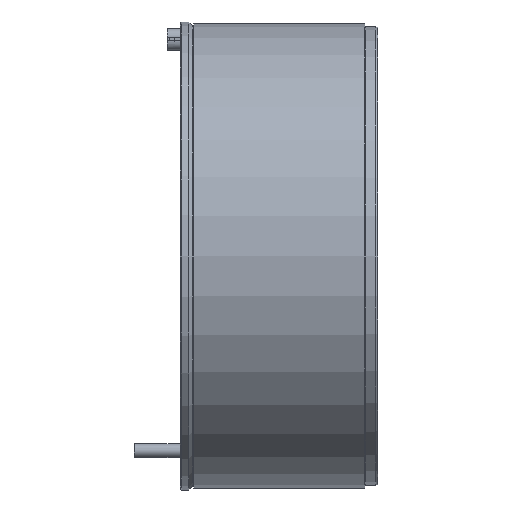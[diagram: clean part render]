
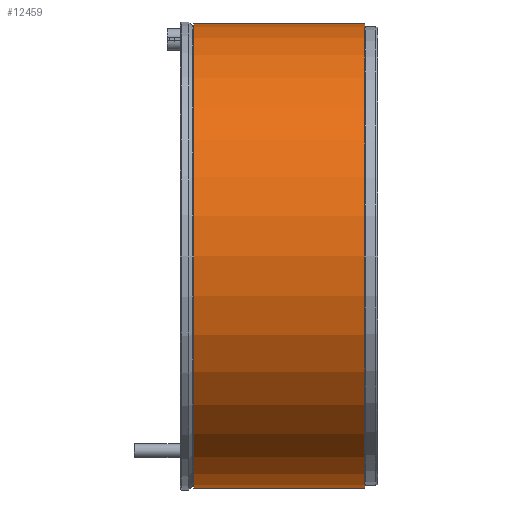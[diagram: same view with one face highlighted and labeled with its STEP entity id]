
A CAD part, left-side view. The second image highlights one B-rep face of the part: STEP entity #12459.
In plain terms, the highlighted cylindrical face has radius 247 mm (diameter 494 mm), a partial arc.
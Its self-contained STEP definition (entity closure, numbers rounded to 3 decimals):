
#418 = AXIS2_PLACEMENT_3D ( 'NONE', #10026, #9931, #8869 ) ;
#491 = EDGE_CURVE ( 'NONE', #3554, #9734, #3023, .T. ) ;
#968 = CARTESIAN_POINT ( 'NONE',  ( 0., 0., 247. ) ) ;
#1004 = ORIENTED_EDGE ( 'NONE', *, *, #1023, .T. ) ;
#1023 = EDGE_CURVE ( 'NONE', #5989, #3554, #3674, .T. ) ;
#1121 = CIRCLE ( 'NONE', #418, 247. ) ;
#1138 = VECTOR ( 'NONE', #4233, 1000. ) ;
#1321 = DIRECTION ( 'NONE',  ( 0., 0., -1. ) ) ;
#1365 = CARTESIAN_POINT ( 'NONE',  ( 0., 0., 0. ) ) ;
#1493 = AXIS2_PLACEMENT_3D ( 'NONE', #1365, #2466, #1321 ) ;
#2093 = EDGE_CURVE ( 'NONE', #5989, #10664, #12346, .T. ) ;
#2466 = DIRECTION ( 'NONE',  ( 0., -1., 0. ) ) ;
#2825 = CYLINDRICAL_SURFACE ( 'NONE', #1493, 247. ) ;
#2936 = ORIENTED_EDGE ( 'NONE', *, *, #491, .T. ) ;
#3023 = LINE ( 'NONE', #5469, #1138 ) ;
#3263 = ORIENTED_EDGE ( 'NONE', *, *, #2093, .F. ) ;
#3554 = VERTEX_POINT ( 'NONE', #10196 ) ;
#3674 = CIRCLE ( 'NONE', #9318, 247. ) ;
#4233 = DIRECTION ( 'NONE',  ( 0., -1., 0. ) ) ;
#4831 = VECTOR ( 'NONE', #13013, 1000. ) ;
#5093 = CARTESIAN_POINT ( 'NONE',  ( 0., 14., -247. ) ) ;
#5469 = CARTESIAN_POINT ( 'NONE',  ( 0., 0., -247. ) ) ;
#5892 = CARTESIAN_POINT ( 'NONE',  ( 0., 196., 247. ) ) ;
#5989 = VERTEX_POINT ( 'NONE', #5892 ) ;
#6663 = ORIENTED_EDGE ( 'NONE', *, *, #10677, .F. ) ;
#7555 = CARTESIAN_POINT ( 'NONE',  ( 0., 196., 0. ) ) ;
#7923 = FACE_OUTER_BOUND ( 'NONE', #8343, .T. ) ;
#8343 = EDGE_LOOP ( 'NONE', ( #3263, #1004, #2936, #6663 ) ) ;
#8869 = DIRECTION ( 'NONE',  ( 0., 0., -1. ) ) ;
#9318 = AXIS2_PLACEMENT_3D ( 'NONE', #7555, #9880, #11033 ) ;
#9734 = VERTEX_POINT ( 'NONE', #5093 ) ;
#9880 = DIRECTION ( 'NONE',  ( 0., -1., 0. ) ) ;
#9931 = DIRECTION ( 'NONE',  ( 0., -1., 0. ) ) ;
#10026 = CARTESIAN_POINT ( 'NONE',  ( 0., 14., 0. ) ) ;
#10196 = CARTESIAN_POINT ( 'NONE',  ( 0., 196., -247. ) ) ;
#10664 = VERTEX_POINT ( 'NONE', #13160 ) ;
#10677 = EDGE_CURVE ( 'NONE', #10664, #9734, #1121, .T. ) ;
#11033 = DIRECTION ( 'NONE',  ( 0., 0., -1. ) ) ;
#12346 = LINE ( 'NONE', #968, #4831 ) ;
#12459 = ADVANCED_FACE ( 'NONE', ( #7923 ), #2825, .T. ) ;
#13013 = DIRECTION ( 'NONE',  ( 0., -1., 0. ) ) ;
#13160 = CARTESIAN_POINT ( 'NONE',  ( 0., 14., 247. ) ) ;
